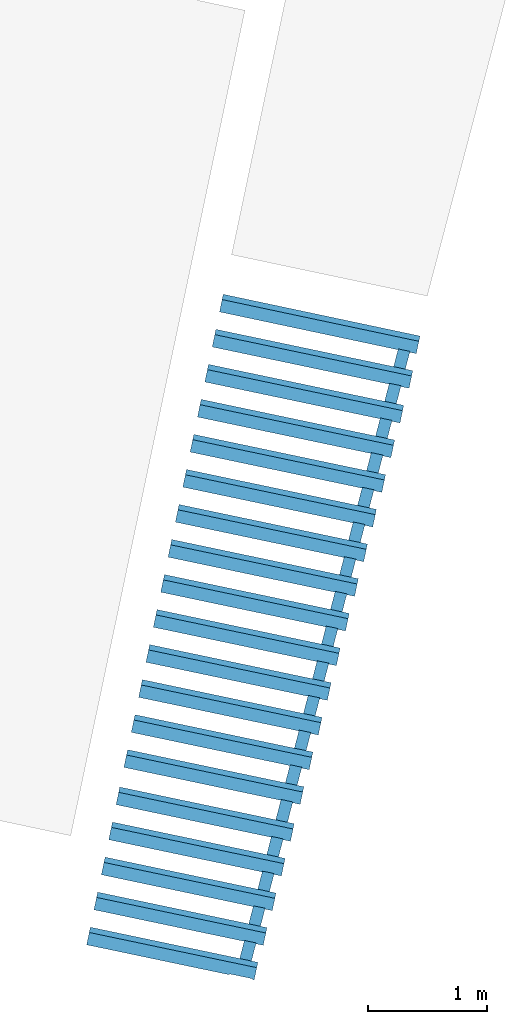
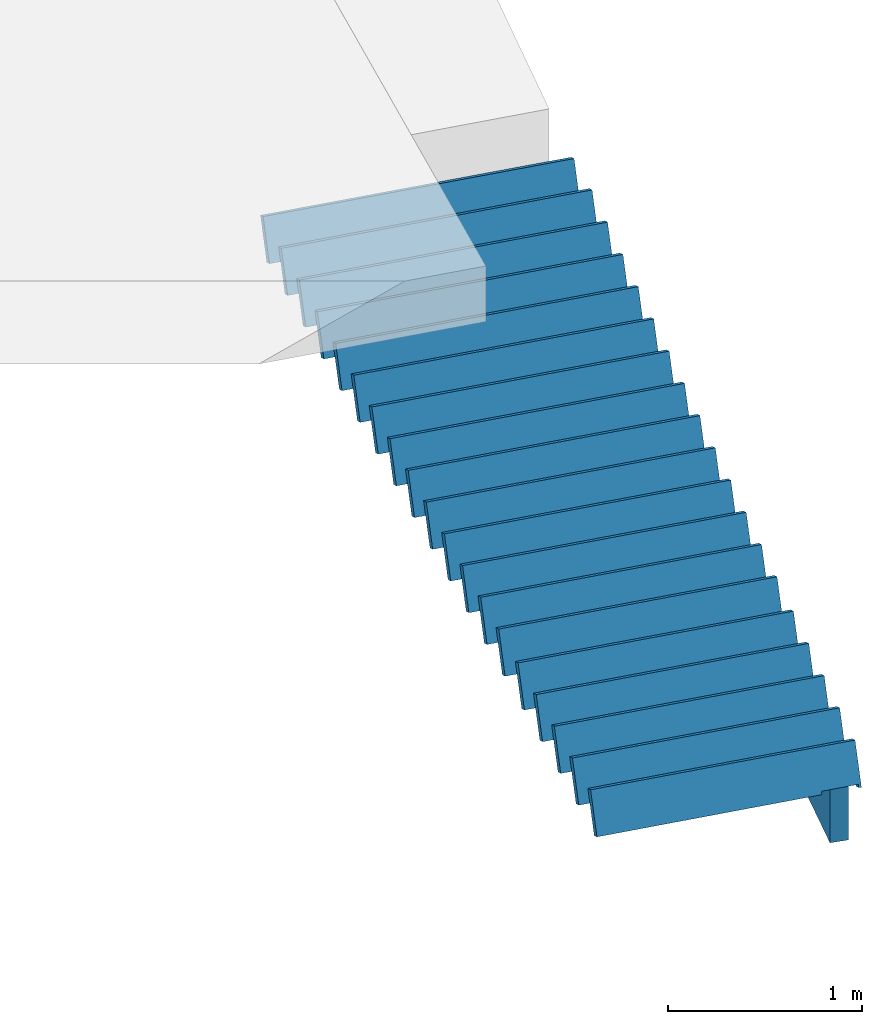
# One storey, part 1 of 2: 20 beams.
"""IFC2X3 building model written with IfcOpenShell, lengths in metres."""

from ifc_helpers import new_model, entity, si_unit, converted_unit, derived_unit, direction, frame, frame_2d, origin, place, context, subcontext, project, spatial, rectangle, extrude, faceted_brep, material, type_object, element, save


model = new_model("IFC2X3")

# Units and contexts
model_context = context("Model", 3, precision=1e-05, world=origin(), true_north=direction((6.12303176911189e-17, 1.0)))
body_context = subcontext(model_context, "Body", "Model", "MODEL_VIEW")
ifc_project = project(units=[si_unit("LENGTHUNIT", "METRE"), si_unit("AREAUNIT", "SQUARE_METRE"), si_unit("VOLUMEUNIT", "CUBIC_METRE"), converted_unit("PLANEANGLEUNIT", "DEGREE", entity("IfcRatioMeasure", 0.0174532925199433), si_unit("PLANEANGLEUNIT", "RADIAN"), dimensions=[0, 0, 0, 0, 0, 0, 0]), si_unit("MASSUNIT", "GRAM", prefix="KILO"), derived_unit("MASSDENSITYUNIT", [(si_unit("MASSUNIT", "GRAM", prefix="KILO"), 1), (si_unit("LENGTHUNIT", "METRE"), -3)]), si_unit("TIMEUNIT", "SECOND"), si_unit("FREQUENCYUNIT", "HERTZ"), si_unit("THERMODYNAMICTEMPERATUREUNIT", "DEGREE_CELSIUS"), derived_unit("THERMALTRANSMITTANCEUNIT", [(si_unit("MASSUNIT", "GRAM", prefix="KILO"), 1), (si_unit("THERMODYNAMICTEMPERATUREUNIT", "KELVIN"), -1), (si_unit("TIMEUNIT", "SECOND"), -3)]), derived_unit("VOLUMETRICFLOWRATEUNIT", [(si_unit("LENGTHUNIT", "METRE"), 3), (si_unit("TIMEUNIT", "SECOND"), -1)]), si_unit("ELECTRICCURRENTUNIT", "AMPERE"), si_unit("ELECTRICVOLTAGEUNIT", "VOLT"), si_unit("POWERUNIT", "WATT"), si_unit("FORCEUNIT", "NEWTON", prefix="KILO"), si_unit("ILLUMINANCEUNIT", "LUX"), si_unit("LUMINOUSFLUXUNIT", "LUMEN"), si_unit("LUMINOUSINTENSITYUNIT", "CANDELA"), derived_unit("USERDEFINED", [(si_unit("MASSUNIT", "GRAM", prefix="KILO"), -1), (si_unit("LENGTHUNIT", "METRE"), -2), (si_unit("TIMEUNIT", "SECOND"), 3), (si_unit("LUMINOUSFLUXUNIT", "LUMEN"), 1)]), derived_unit("LINEARVELOCITYUNIT", [(si_unit("LENGTHUNIT", "METRE"), 1), (si_unit("TIMEUNIT", "SECOND"), -1)]), si_unit("PRESSUREUNIT", "PASCAL"), derived_unit("USERDEFINED", [(si_unit("LENGTHUNIT", "METRE"), -2), (si_unit("MASSUNIT", "GRAM", prefix="KILO"), 1), (si_unit("TIMEUNIT", "SECOND"), -2)])], contexts=[model_context])

# Site, building, storey
site_placement = place(None, origin())
site = spatial("IfcSite", under=ifc_project, at=site_placement, Name="Default", CompositionType="ELEMENT")
building_placement = place(site_placement, origin())
building = spatial("IfcBuilding", under=site, at=building_placement, CompositionType="ELEMENT")
storey_placement = place(building_placement, frame((0.0, 0.0, 2.82)))
storey = spatial("IfcBuildingStorey", under=building, at=storey_placement, Name="Etage 1", CompositionType="ELEMENT", Elevation=2.82)

# Beams
ifc_material = material(Name="Béton - Béton coulé sur place")
beam_type_1 = type_object("IfcBeamType", Name="10 x 35 ht", PredefinedType="BEAM")
beam_1_placement = place(storey_placement, frame((-9.07033245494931, 78.4099005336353, -0.0886871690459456), z_axis=(0.0, 0.0, 1.0), x_axis=(-0.251659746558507, -0.96781577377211, 0.0)))
element("IfcBeam", 1, at=beam_1_placement, inside=storey, type_object=beam_type_1, material=ifc_material, Name="Poutre rectangulaire - Béton:10 x 35 ht", ObjectType="Poutre rectangulaire - Béton:10 x 35 ht", context=body_context, shape_type="SweptSolid", body=[
    extrude(rectangle(XDim=0.35, YDim=0.100000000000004, at=frame_2d((2.77555756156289e-16, -4.28129753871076e-15), x_axis=(1.0, 0.0))), frame((0.0, 0.0, -0.175000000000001), z_axis=(1.0, 0.0, 0.0), x_axis=(0.0, 0.0, -1.0)), (0.0, 0.0, 1.0), 5.47270000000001),
])
beam_type_2 = type_object("IfcBeamType", Name="5 x 25 ht 2", PredefinedType="BEAM")
beam_2_placement = place(storey_placement, frame((-10.6346334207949, 78.313650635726, -0.125829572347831), z_axis=(0.0, 0.0, 1.0), x_axis=(0.978238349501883, -0.207484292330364, 0.0)))
element("IfcBeam", 2, at=beam_2_placement, inside=storey, type_object=beam_type_2, material=ifc_material, Name="Poutre rectangulaire - Béton:5 x 25 ht 2", ObjectType="Poutre rectangulaire - Béton:5 x 25 ht 2", context=body_context, shape_type="Brep", body=[
    faceted_brep([(1.61284398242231, 0.447738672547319, 0.247707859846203), (1.61284398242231, 0.342084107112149, 0.0211309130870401), (1.61284398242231, 0.387399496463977, 0.0), (1.61284398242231, 0.493054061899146, 0.226576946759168), (-0.0725560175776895, 0.44773867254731, 0.247707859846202), (-0.0725560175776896, 0.493054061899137, 0.226576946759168), (-0.0725560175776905, 0.387399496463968, 0.0), (-0.0725560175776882, 0.342084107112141, 0.0211309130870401), (1.45675608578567, 0.342084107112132, 0.0211309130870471), (1.45709522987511, 0.349550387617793, 0.0371424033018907), (1.55719834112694, 0.349550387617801, 0.037142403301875), (1.55685919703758, 0.342084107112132, 0.0211309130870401), (1.55891757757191, 0.387399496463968, 0.0), (1.55970430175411, 0.404719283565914, 0.037142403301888), (1.45960119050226, 0.404719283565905, 0.0371424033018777), (1.45881446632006, 0.387399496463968, 0.0)], [[[0, 1, 2, 3]], [[4, 5, 6, 7]], [[1, 0, 4, 7, 8, 9, 10, 11]], [[2, 1, 11, 12]], [[3, 2, 12, 13, 14, 15, 6, 5]], [[0, 3, 5, 4]], [[14, 9, 8, 15]], [[10, 13, 12, 11]], [[9, 14, 13, 10]], [[7, 6, 15, 8]]]),
])
beam_3_placement = place(storey_placement, frame((-10.6956964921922, 78.0231541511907, -0.125829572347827), z_axis=(0.0, 0.0, 1.0), x_axis=(0.978645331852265, -0.205556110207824, 0.0)))
element("IfcBeam", 3, at=beam_3_placement, inside=storey, type_object=beam_type_2, material=ifc_material, Name="Poutre rectangulaire - Béton:5 x 25 ht 2", ObjectType="Poutre rectangulaire - Béton:5 x 25 ht 2", context=body_context, shape_type="Brep", body=[
    faceted_brep([(1.61418626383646, 0.444700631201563, 0.247707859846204), (1.61418626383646, 0.339046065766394, 0.0211309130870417), (1.61418626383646, 0.38436145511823, 0.0), (1.61418626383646, 0.490016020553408, 0.226576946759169), (-0.0712137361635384, 0.444700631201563, 0.247707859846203), (-0.0712137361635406, 0.490016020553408, 0.226576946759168), (-0.0712137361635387, 0.38436145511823, 0.0), (-0.0712137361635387, 0.339046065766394, 0.0211309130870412), (1.44339529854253, 0.339046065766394, 0.0211309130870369), (1.44374918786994, 0.346512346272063, 0.0371424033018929), (1.54386145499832, 0.346512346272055, 0.0371424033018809), (1.54350756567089, 0.339046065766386, 0.0211309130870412), (1.54565544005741, 0.384361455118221, 0.0), (1.54647636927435, 0.401681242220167, 0.0371424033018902), (1.44636410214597, 0.40168124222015, 0.0371424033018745), (1.44554317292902, 0.384361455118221, 0.0)], [[[0, 1, 2, 3]], [[4, 5, 6, 7]], [[1, 0, 4, 7, 8, 9, 10, 11]], [[2, 1, 11, 12]], [[3, 2, 12, 13, 14, 15, 6, 5]], [[0, 3, 5, 4]], [[14, 9, 8, 15]], [[10, 13, 12, 11]], [[9, 14, 13, 10]], [[7, 6, 15, 8]]]),
])
beam_4_placement = place(storey_placement, frame((-10.7577037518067, 77.7325098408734, -0.125829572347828), z_axis=(0.0, 0.0, 1.0), x_axis=(0.978645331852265, -0.205556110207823, 0.0)))
element("IfcBeam", 4, at=beam_4_placement, inside=storey, type_object=beam_type_2, material=ifc_material, Name="Poutre rectangulaire - Béton:5 x 25 ht 2", ObjectType="Poutre rectangulaire - Béton:5 x 25 ht 2", context=body_context, shape_type="Brep", body=[
    faceted_brep([(1.60077781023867, 0.441884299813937, 0.247707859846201), (1.60077781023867, 0.336229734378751, 0.0211309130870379), (1.60077781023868, 0.381545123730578, 0.0), (1.60077781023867, 0.487199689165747, 0.226576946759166), (-0.0706221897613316, 0.441884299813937, 0.2477078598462), (-0.0706221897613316, 0.487199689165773, 0.226576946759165), (-0.07062218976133, 0.381545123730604, 0.0), (-0.0706221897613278, 0.33622973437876, 0.0211309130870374), (1.43011519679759, 0.33622973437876, 0.0211309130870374), (1.43046908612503, 0.34369601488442, 0.037142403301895), (1.53058135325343, 0.343696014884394, 0.0371424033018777), (1.53022746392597, 0.336229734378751, 0.0211309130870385), (1.53237533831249, 0.381545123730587, 0.0), (1.53319626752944, 0.398864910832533, 0.0371424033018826), (1.43308400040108, 0.398864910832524, 0.0371424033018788), (1.4322630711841, 0.381545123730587, 0.0)], [[[0, 1, 2, 3]], [[4, 5, 6, 7]], [[1, 0, 4, 7, 8, 9, 10, 11]], [[2, 1, 11, 12]], [[3, 2, 12, 13, 14, 15, 6, 5]], [[0, 3, 5, 4]], [[14, 9, 8, 15]], [[10, 13, 12, 11]], [[9, 14, 13, 10]], [[7, 6, 15, 8]]]),
])
beam_5_placement = place(storey_placement, frame((-10.8192216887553, 77.4419683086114, -0.125829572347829), z_axis=(0.0, 0.0, 1.0), x_axis=(0.978645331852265, -0.205556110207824, 0.0)))
element("IfcBeam", 5, at=beam_5_placement, inside=storey, type_object=beam_type_2, material=ifc_material, Name="Poutre rectangulaire - Béton:5 x 25 ht 2", ObjectType="Poutre rectangulaire - Béton:5 x 25 ht 2", context=body_context, shape_type="Brep", body=[
    faceted_brep([(1.58641160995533, 0.438866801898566, 0.247707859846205), (1.58641160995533, 0.333212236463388, 0.0211309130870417), (1.58641160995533, 0.378527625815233, 0.0), (1.58641160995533, 0.484182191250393, 0.22657694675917), (-0.0699883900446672, 0.438866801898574, 0.247707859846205), (-0.0699883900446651, 0.484182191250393, 0.22657694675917), (-0.0699883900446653, 0.378527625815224, 0.0), (-0.0699883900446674, 0.333212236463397, 0.0211309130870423), (1.41637734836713, 0.333212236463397, 0.0211309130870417), (1.41673123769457, 0.340678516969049, 0.0371424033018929), (1.51684350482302, 0.34067851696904, 0.037142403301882), (1.51648961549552, 0.333212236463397, 0.0211309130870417), (1.51863748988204, 0.378527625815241, 0.0), (1.51945841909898, 0.395847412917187, 0.0371424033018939), (1.41934615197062, 0.395847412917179, 0.0371424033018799), (1.41852522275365, 0.378527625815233, 0.0)], [[[0, 1, 2, 3]], [[4, 5, 6, 7]], [[1, 0, 4, 7, 8, 9, 10, 11]], [[2, 1, 11, 12]], [[3, 2, 12, 13, 14, 15, 6, 5]], [[0, 3, 5, 4]], [[14, 9, 8, 15]], [[10, 13, 12, 11]], [[9, 14, 13, 10]], [[7, 6, 15, 8]]]),
])
beam_6_placement = place(storey_placement, frame((-10.8807396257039, 77.1514267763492, -0.125829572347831), z_axis=(0.0, 0.0, 1.0), x_axis=(0.978645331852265, -0.205556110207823, 0.0)))
element("IfcBeam", 6, at=beam_6_placement, inside=storey, type_object=beam_type_2, material=ifc_material, Name="Poutre rectangulaire - Béton:5 x 25 ht 2", ObjectType="Poutre rectangulaire - Béton:5 x 25 ht 2", context=body_context, shape_type="Brep", body=[
    faceted_brep([(1.57204540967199, 0.435849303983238, 0.247707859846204), (1.57204540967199, 0.330194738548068, 0.0211309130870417), (1.57204540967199, 0.375510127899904, 0.0), (1.57204540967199, 0.481164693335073, 0.226576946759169), (-0.0693545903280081, 0.435849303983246, 0.247707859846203), (-0.0693545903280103, 0.481164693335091, 0.226576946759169), (-0.0693545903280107, 0.375510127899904, 0.0), (-0.0693545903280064, 0.330194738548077, 0.0211309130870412), (1.40263949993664, 0.330194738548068, 0.0211309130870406), (1.40299338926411, 0.337661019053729, 0.0371424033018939), (1.50310565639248, 0.33766101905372, 0.0371424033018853), (1.50275176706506, 0.330194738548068, 0.0211309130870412), (1.50489964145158, 0.375510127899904, 0.0), (1.50572057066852, 0.392829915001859, 0.0371424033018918), (1.40560830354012, 0.39282991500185, 0.037142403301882), (1.40478737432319, 0.375510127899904, 0.0)], [[[0, 1, 2, 3]], [[4, 5, 6, 7]], [[1, 0, 4, 7, 8, 9, 10, 11]], [[2, 1, 11, 12]], [[3, 2, 12, 13, 14, 15, 6, 5]], [[0, 3, 5, 4]], [[14, 9, 8, 15]], [[10, 13, 12, 11]], [[9, 14, 13, 10]], [[7, 6, 15, 8]]]),
])
beam_7_placement = place(storey_placement, frame((-10.9422575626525, 76.8608852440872, -0.125829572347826), z_axis=(0.0, 0.0, 1.0), x_axis=(0.978645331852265, -0.205556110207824, 0.0)))
element("IfcBeam", 7, at=beam_7_placement, inside=storey, type_object=beam_type_2, material=ifc_material, Name="Poutre rectangulaire - Béton:5 x 25 ht 2", ObjectType="Poutre rectangulaire - Béton:5 x 25 ht 2", context=body_context, shape_type="Brep", body=[
    faceted_brep([(1.55767920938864, 0.432831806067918, 0.247707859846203), (1.55767920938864, 0.32717724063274, 0.0211309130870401), (1.55767920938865, 0.372492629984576, 0.0), (1.55767920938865, 0.478147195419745, 0.226576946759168), (-0.0687207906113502, 0.432831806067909, 0.247707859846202), (-0.0687207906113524, 0.478147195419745, 0.226576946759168), (-0.0687207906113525, 0.372492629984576, 0.0), (-0.0687207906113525, 0.32717724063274, 0.0211309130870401), (1.38890165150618, 0.32717724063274, 0.0211309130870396), (1.38925554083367, 0.334643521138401, 0.0371424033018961), (1.48936780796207, 0.334643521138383, 0.0371424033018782), (1.48901391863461, 0.32717724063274, 0.0211309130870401), (1.49116179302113, 0.372492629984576, 0.0), (1.49198272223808, 0.389812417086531, 0.0371424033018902), (1.39187045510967, 0.389812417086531, 0.0371424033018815), (1.39104952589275, 0.372492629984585, 0.0)], [[[0, 1, 2, 3]], [[4, 5, 6, 7]], [[1, 0, 4, 7, 8, 9, 10, 11]], [[2, 1, 11, 12]], [[3, 2, 12, 13, 14, 15, 6, 5]], [[0, 3, 5, 4]], [[14, 9, 8, 15]], [[10, 13, 12, 11]], [[9, 14, 13, 10]], [[7, 6, 15, 8]]]),
])
beam_8_placement = place(storey_placement, frame((-11.004264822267, 76.5702409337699, -0.125829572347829), z_axis=(0.0, 0.0, 1.0), x_axis=(0.978645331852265, -0.205556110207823, 0.0)))
element("IfcBeam", 8, at=beam_8_placement, inside=storey, type_object=beam_type_2, material=ifc_material, Name="Poutre rectangulaire - Béton:5 x 25 ht 2", ObjectType="Poutre rectangulaire - Béton:5 x 25 ht 2", context=body_context, shape_type="Brep", body=[
    faceted_brep([(1.54427075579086, 0.430015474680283, 0.2477078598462), (1.54427075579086, 0.324360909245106, 0.0211309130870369), (1.54427075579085, 0.36967629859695, 0.0), (1.54427075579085, 0.475330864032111, 0.226576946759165), (-0.0681292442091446, 0.430015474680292, 0.2477078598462), (-0.0681292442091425, 0.475330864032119, 0.226576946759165), (-0.0681292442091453, 0.36967629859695, 0.0), (-0.0681292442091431, 0.324360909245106, 0.0211309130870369), (1.37562154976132, 0.324360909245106, 0.0211309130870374), (1.37597543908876, 0.331827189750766, 0.0371424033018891), (1.47608770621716, 0.331827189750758, 0.0371424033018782), (1.47573381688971, 0.324360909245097, 0.0211309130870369), (1.47788169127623, 0.369676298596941, 0.0), (1.47870262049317, 0.386996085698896, 0.0371424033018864), (1.37859035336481, 0.386996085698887, 0.037142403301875), (1.37776942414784, 0.369676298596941, 0.0)], [[[0, 1, 2, 3]], [[4, 5, 6, 7]], [[1, 0, 4, 7, 8, 9, 10, 11]], [[2, 1, 11, 12]], [[3, 2, 12, 13, 14, 15, 6, 5]], [[0, 3, 5, 4]], [[14, 9, 8, 15]], [[10, 13, 12, 11]], [[9, 14, 13, 10]], [[7, 6, 15, 8]]]),
])
beam_9_placement = place(storey_placement, frame((-11.0657827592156, 76.2796994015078, -0.125829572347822), z_axis=(0.0, 0.0, 1.0), x_axis=(0.978645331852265, -0.205556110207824, 0.0)))
element("IfcBeam", 9, at=beam_9_placement, inside=storey, type_object=beam_type_2, material=ifc_material, Name="Poutre rectangulaire - Béton:5 x 25 ht 2", ObjectType="Poutre rectangulaire - Béton:5 x 25 ht 2", context=body_context, shape_type="Brep", body=[
    faceted_brep([(1.52990455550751, 0.426997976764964, 0.2477078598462), (1.52990455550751, 0.321343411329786, 0.0211309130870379), (1.52990455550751, 0.36665880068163, 0.0), (1.52990455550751, 0.4723133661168, 0.226576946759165), (-0.0674954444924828, 0.426997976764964, 0.2477078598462), (-0.0674954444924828, 0.472313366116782, 0.226576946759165), (-0.0674954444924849, 0.366658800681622, 0.0), (-0.0674954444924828, 0.321343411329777, 0.0211309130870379), (1.36188370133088, 0.321343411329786, 0.0211309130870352), (1.3622375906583, 0.328809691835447, 0.0371424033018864), (1.46234985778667, 0.328809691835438, 0.037142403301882), (1.46199596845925, 0.321343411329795, 0.0211309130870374), (1.46414384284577, 0.36665880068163, 0.0), (1.46496477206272, 0.383978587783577, 0.0371424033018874), (1.36485250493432, 0.383978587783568, 0.0371424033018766), (1.36403157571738, 0.366658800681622, 0.0)], [[[0, 1, 2, 3]], [[4, 5, 6, 7]], [[1, 0, 4, 7, 8, 9, 10, 11]], [[2, 1, 11, 12]], [[3, 2, 12, 13, 14, 15, 6, 5]], [[0, 3, 5, 4]], [[14, 9, 8, 15]], [[10, 13, 12, 11]], [[9, 14, 13, 10]], [[7, 6, 15, 8]]]),
])
beam_10_placement = place(storey_placement, frame((-11.1273006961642, 75.9891578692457, -0.125829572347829), z_axis=(0.0, 0.0, 1.0), x_axis=(0.978645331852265, -0.205556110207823, 0.0)))
element("IfcBeam", 10, at=beam_10_placement, inside=storey, type_object=beam_type_2, material=ifc_material, Name="Poutre rectangulaire - Béton:5 x 25 ht 2", ObjectType="Poutre rectangulaire - Béton:5 x 25 ht 2", context=body_context, shape_type="Brep", body=[
    faceted_brep([(1.51553835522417, 0.423980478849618, 0.2477078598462), (1.51553835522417, 0.31832591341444, 0.0211309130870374), (1.51553835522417, 0.363641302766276, 0.0), (1.51553835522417, 0.469295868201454, 0.226576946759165), (-0.0668616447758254, 0.423980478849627, 0.2477078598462), (-0.0668616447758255, 0.469295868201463, 0.226576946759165), (-0.066861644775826, 0.363641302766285, 0.0), (-0.0668616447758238, 0.31832591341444, 0.0211309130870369), (1.34814585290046, 0.31832591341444, 0.0211309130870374), (1.34849974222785, 0.325792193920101, 0.0371424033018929), (1.4486120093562, 0.325792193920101, 0.0371424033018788), (1.44825812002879, 0.318325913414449, 0.0211309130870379), (1.45040599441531, 0.363641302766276, 0.0), (1.45122692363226, 0.380961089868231, 0.0371424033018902), (1.3511146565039, 0.380961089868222, 0.0371424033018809), (1.35029372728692, 0.363641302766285, 0.0)], [[[0, 1, 2, 3]], [[4, 5, 6, 7]], [[1, 0, 4, 7, 8, 9, 10, 11]], [[2, 1, 11, 12]], [[3, 2, 12, 13, 14, 15, 6, 5]], [[0, 3, 5, 4]], [[14, 9, 8, 15]], [[10, 13, 12, 11]], [[9, 14, 13, 10]], [[7, 6, 15, 8]]]),
])
beam_11_placement = place(storey_placement, frame((-11.1888186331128, 75.6986163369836, -0.125829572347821), z_axis=(0.0, 0.0, 1.0), x_axis=(0.978645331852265, -0.205556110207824, 0.0)))
element("IfcBeam", 11, at=beam_11_placement, inside=storey, type_object=beam_type_2, material=ifc_material, Name="Poutre rectangulaire - Béton:5 x 25 ht 2", ObjectType="Poutre rectangulaire - Béton:5 x 25 ht 2", context=body_context, shape_type="Brep", body=[
    faceted_brep([(1.50117215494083, 0.42096298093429, 0.247707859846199), (1.50117215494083, 0.315308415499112, 0.0211309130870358), (1.50117215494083, 0.360623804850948, 0.0), (1.50117215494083, 0.466278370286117, 0.226576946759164), (-0.0662278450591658, 0.420962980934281, 0.247707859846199), (-0.0662278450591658, 0.466278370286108, 0.226576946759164), (-0.0662278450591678, 0.360623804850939, 0.0), (-0.0662278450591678, 0.315308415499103, 0.0211309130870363), (1.33440800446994, 0.315308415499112, 0.0211309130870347), (1.33476189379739, 0.322774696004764, 0.0371424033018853), (1.43487416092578, 0.322774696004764, 0.0371424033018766), (1.43452027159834, 0.315308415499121, 0.0211309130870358), (1.43666814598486, 0.360623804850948, 0.0), (1.43748907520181, 0.377943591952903, 0.0371424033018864), (1.33737680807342, 0.377943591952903, 0.037142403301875), (1.33655587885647, 0.360623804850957, 0.0)], [[[0, 1, 2, 3]], [[4, 5, 6, 7]], [[1, 0, 4, 7, 8, 9, 10, 11]], [[2, 1, 11, 12]], [[3, 2, 12, 13, 14, 15, 6, 5]], [[0, 3, 5, 4]], [[14, 9, 8, 15]], [[10, 13, 12, 11]], [[9, 14, 13, 10]], [[7, 6, 15, 8]]]),
])
beam_12_placement = place(storey_placement, frame((-11.2508258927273, 75.4079720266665, -0.125829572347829), z_axis=(0.0, 0.0, 1.0), x_axis=(0.978645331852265, -0.205556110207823, 0.0)))
element("IfcBeam", 12, at=beam_12_placement, inside=storey, type_object=beam_type_2, material=ifc_material, Name="Poutre rectangulaire - Béton:5 x 25 ht 2", ObjectType="Poutre rectangulaire - Béton:5 x 25 ht 2", context=body_context, shape_type="Brep", body=[
    faceted_brep([(1.48776370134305, 0.418146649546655, 0.247707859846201), (1.48776370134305, 0.312492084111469, 0.021130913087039), (1.48776370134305, 0.357807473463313, 0.0), (1.48776370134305, 0.463462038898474, 0.226576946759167), (-0.0656362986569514, 0.418146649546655, 0.247707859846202), (-0.0656362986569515, 0.463462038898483, 0.226576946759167), (-0.0656362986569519, 0.357807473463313, 0.0), (-0.0656362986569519, 0.312492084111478, 0.0211309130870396), (1.32112790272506, 0.312492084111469, 0.0211309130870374), (1.32148179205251, 0.319958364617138, 0.0371424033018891), (1.4215940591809, 0.31995836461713, 0.0371424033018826), (1.42124016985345, 0.312492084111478, 0.021130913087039), (1.42338804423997, 0.357807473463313, 0.0), (1.42420897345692, 0.375127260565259, 0.0371424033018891), (1.3240967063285, 0.375127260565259, 0.0371424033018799), (1.32327577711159, 0.357807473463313, 0.0)], [[[0, 1, 2, 3]], [[4, 5, 6, 7]], [[1, 0, 4, 7, 8, 9, 10, 11]], [[2, 1, 11, 12]], [[3, 2, 12, 13, 14, 15, 6, 5]], [[0, 3, 5, 4]], [[14, 9, 8, 15]], [[10, 13, 12, 11]], [[9, 14, 13, 10]], [[7, 6, 15, 8]]]),
])
beam_13_placement = place(storey_placement, frame((-11.3123438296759, 75.1174304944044, -0.125829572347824), z_axis=(0.0, 0.0, 1.0), x_axis=(0.978645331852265, -0.205556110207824, 0.0)))
element("IfcBeam", 13, at=beam_13_placement, inside=storey, type_object=beam_type_2, material=ifc_material, Name="Poutre rectangulaire - Béton:5 x 25 ht 2", ObjectType="Poutre rectangulaire - Béton:5 x 25 ht 2", context=body_context, shape_type="Brep", body=[
    faceted_brep([(1.4733975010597, 0.415129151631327, 0.2477078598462), (1.4733975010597, 0.309474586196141, 0.0211309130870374), (1.4733975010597, 0.354789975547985, 0.0), (1.4733975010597, 0.460444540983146, 0.226576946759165), (-0.0650024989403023, 0.415129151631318, 0.2477078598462), (-0.0650024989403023, 0.460444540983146, 0.226576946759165), (-0.0650024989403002, 0.354789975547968, 0.0), (-0.0650024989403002, 0.309474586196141, 0.0211309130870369), (1.30739005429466, 0.309474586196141, 0.0211309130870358), (1.30774394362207, 0.31694086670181, 0.0371424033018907), (1.40785621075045, 0.316940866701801, 0.0371424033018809), (1.40750232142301, 0.309474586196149, 0.0211309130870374), (1.40965019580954, 0.354789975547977, 0.0), (1.41047112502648, 0.372109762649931, 0.0371424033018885), (1.31035885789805, 0.372109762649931, 0.0371424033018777), (1.30953792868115, 0.354789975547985, 0.0)], [[[0, 1, 2, 3]], [[4, 5, 6, 7]], [[1, 0, 4, 7, 8, 9, 10, 11]], [[2, 1, 11, 12]], [[3, 2, 12, 13, 14, 15, 6, 5]], [[0, 3, 5, 4]], [[14, 9, 8, 15]], [[10, 13, 12, 11]], [[9, 14, 13, 10]], [[7, 6, 15, 8]]]),
])
beam_14_placement = place(storey_placement, frame((-11.3738617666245, 74.8268889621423, -0.125829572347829), z_axis=(0.0, 0.0, 1.0), x_axis=(0.978645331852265, -0.205556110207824, 0.0)))
element("IfcBeam", 14, at=beam_14_placement, inside=storey, type_object=beam_type_2, material=ifc_material, Name="Poutre rectangulaire - Béton:5 x 25 ht 2", ObjectType="Poutre rectangulaire - Béton:5 x 25 ht 2", context=body_context, shape_type="Brep", body=[
    faceted_brep([(1.45903130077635, 0.41211165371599, 0.247707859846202), (1.45903130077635, 0.306457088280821, 0.021130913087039), (1.45903130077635, 0.351772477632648, 0.0), (1.45903130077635, 0.457427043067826, 0.226576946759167), (-0.0643686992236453, 0.41211165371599, 0.247707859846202), (-0.0643686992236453, 0.457427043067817, 0.226576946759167), (-0.0643686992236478, 0.351772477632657, 0.0), (-0.0643686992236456, 0.306457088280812, 0.021130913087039), (1.29365220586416, 0.306457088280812, 0.0211309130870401), (1.29400609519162, 0.313923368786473, 0.0371424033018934), (1.39411836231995, 0.313923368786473, 0.0371424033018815), (1.39376447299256, 0.306457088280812, 0.021130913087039), (1.39591234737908, 0.351772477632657, 0.0), (1.39673327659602, 0.369092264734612, 0.0371424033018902), (1.29662100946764, 0.369092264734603, 0.0371424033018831), (1.29580008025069, 0.351772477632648, 0.0)], [[[0, 1, 2, 3]], [[4, 5, 6, 7]], [[1, 0, 4, 7, 8, 9, 10, 11]], [[2, 1, 11, 12]], [[3, 2, 12, 13, 14, 15, 6, 5]], [[0, 3, 5, 4]], [[14, 9, 8, 15]], [[10, 13, 12, 11]], [[9, 14, 13, 10]], [[7, 6, 15, 8]]]),
])
beam_15_placement = place(storey_placement, frame((-11.435869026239, 74.536244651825, -0.125829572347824), z_axis=(0.0, 0.0, 1.0), x_axis=(0.978645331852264, -0.205556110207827, 0.0)))
element("IfcBeam", 15, at=beam_15_placement, inside=storey, type_object=beam_type_2, material=ifc_material, Name="Poutre rectangulaire - Béton:5 x 25 ht 2", ObjectType="Poutre rectangulaire - Béton:5 x 25 ht 2", context=body_context, shape_type="Brep", body=[
    faceted_brep([(1.44562284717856, 0.409295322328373, 0.247707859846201), (1.44562284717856, 0.303640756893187, 0.0211309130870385), (1.44562284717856, 0.348956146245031, 0.0), (1.44562284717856, 0.454610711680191, 0.226576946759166), (-0.063777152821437, 0.409295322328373, 0.247707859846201), (-0.063777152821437, 0.4546107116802, 0.226576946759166), (-0.0637771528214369, 0.348956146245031, 0.0), (-0.0637771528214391, 0.303640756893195, 0.0211309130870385), (1.28037210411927, 0.303640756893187, 0.0211309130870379), (1.28072599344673, 0.311107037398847, 0.0371424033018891), (1.38083826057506, 0.311107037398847, 0.0371424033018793), (1.38048437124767, 0.303640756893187, 0.0211309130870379), (1.38263224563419, 0.348956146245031, 0.0), (1.38345317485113, 0.366275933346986, 0.0371424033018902), (1.28334090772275, 0.366275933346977, 0.0371424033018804), (1.2825199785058, 0.348956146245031, 0.0)], [[[0, 1, 2, 3]], [[4, 5, 6, 7]], [[1, 0, 4, 7, 8, 9, 10, 11]], [[2, 1, 11, 12]], [[3, 2, 12, 13, 14, 15, 6, 5]], [[0, 3, 5, 4]], [[14, 9, 8, 15]], [[10, 13, 12, 11]], [[9, 14, 13, 10]], [[7, 6, 15, 8]]]),
])
beam_16_placement = place(storey_placement, frame((-11.5013979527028, 74.2267163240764, -0.125829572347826), z_axis=(0.0, 0.0, 1.0), x_axis=(0.978645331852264, -0.205556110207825, 0.0)))
element("IfcBeam", 16, at=beam_16_placement, inside=storey, type_object=beam_type_2, material=ifc_material, Name="Poutre rectangulaire - Béton:5 x 25 ht 2", ObjectType="Poutre rectangulaire - Béton:5 x 25 ht 2", context=body_context, shape_type="Brep", body=[
    faceted_brep([(1.43029890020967, 0.406076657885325, 0.247707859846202), (1.43029890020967, 0.300422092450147, 0.0211309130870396), (1.43029890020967, 0.345737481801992, 0.0), (1.43029890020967, 0.451392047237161, 0.226576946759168), (-0.0631010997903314, 0.406076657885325, 0.247707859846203), (-0.0631010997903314, 0.451392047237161, 0.226576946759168), (-0.0631010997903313, 0.345737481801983, 0.0), (-0.0631010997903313, 0.300422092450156, 0.0211309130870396), (1.26572740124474, 0.300422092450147, 0.021130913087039), (1.26608129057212, 0.307888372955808, 0.0371424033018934), (1.36619355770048, 0.307888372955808, 0.0371424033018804), (1.36583966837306, 0.300422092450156, 0.0211309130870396), (1.36798754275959, 0.345737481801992, 0.0), (1.36880847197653, 0.363057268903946, 0.037142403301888), (1.26869620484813, 0.363057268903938, 0.0371424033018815), (1.26787527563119, 0.345737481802, 0.0)], [[[0, 1, 2, 3]], [[4, 5, 6, 7]], [[1, 0, 4, 7, 8, 9, 10, 11]], [[2, 1, 11, 12]], [[3, 2, 12, 13, 14, 15, 6, 5]], [[0, 3, 5, 4]], [[14, 9, 8, 15]], [[10, 13, 12, 11]], [[9, 14, 13, 10]], [[7, 6, 15, 8]]]),
])
beam_17_placement = place(storey_placement, frame((-11.5629158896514, 73.9361747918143, -0.125829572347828), z_axis=(0.0, 0.0, 1.0), x_axis=(0.978645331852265, -0.205556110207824, 0.0)))
element("IfcBeam", 17, at=beam_17_placement, inside=storey, type_object=beam_type_2, material=ifc_material, Name="Poutre rectangulaire - Béton:5 x 25 ht 2", ObjectType="Poutre rectangulaire - Béton:5 x 25 ht 2", context=body_context, shape_type="Brep", body=[
    faceted_brep([(1.41593269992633, 0.403059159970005, 0.247707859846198), (1.41593269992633, 0.297404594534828, 0.0211309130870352), (1.41593269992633, 0.342719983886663, 0.0), (1.41593269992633, 0.448374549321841, 0.226576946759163), (-0.0624673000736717, 0.403059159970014, 0.247707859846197), (-0.0624673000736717, 0.448374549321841, 0.226576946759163), (-0.06246730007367, 0.342719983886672, 0.0), (-0.0624673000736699, 0.297404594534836, 0.0211309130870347), (1.25198955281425, 0.297404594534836, 0.0211309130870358), (1.25234344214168, 0.304870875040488, 0.0371424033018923), (1.35245570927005, 0.304870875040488, 0.0371424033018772), (1.35210181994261, 0.297404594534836, 0.0211309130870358), (1.35424969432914, 0.342719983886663, 0.0), (1.35507062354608, 0.360039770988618, 0.0371424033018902), (1.25495835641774, 0.360039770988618, 0.0371424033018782), (1.25413742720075, 0.342719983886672, 0.0)], [[[0, 1, 2, 3]], [[4, 5, 6, 7]], [[1, 0, 4, 7, 8, 9, 10, 11]], [[2, 1, 11, 12]], [[3, 2, 12, 13, 14, 15, 6, 5]], [[0, 3, 5, 4]], [[14, 9, 8, 15]], [[10, 13, 12, 11]], [[9, 14, 13, 10]], [[7, 6, 15, 8]]]),
])
beam_18_placement = place(storey_placement, frame((-11.6244338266, 73.6456332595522, -0.125829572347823), z_axis=(0.0, 0.0, 1.0), x_axis=(0.978645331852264, -0.205556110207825, 0.0)))
element("IfcBeam", 18, at=beam_18_placement, inside=storey, type_object=beam_type_2, material=ifc_material, Name="Poutre rectangulaire - Béton:5 x 25 ht 2", ObjectType="Poutre rectangulaire - Béton:5 x 25 ht 2", context=body_context, shape_type="Brep", body=[
    faceted_brep([(1.40156649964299, 0.400041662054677, 0.2477078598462), (1.40156649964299, 0.294387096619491, 0.0211309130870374), (1.40156649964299, 0.339702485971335, 0.0), (1.40156649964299, 0.445357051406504, 0.226576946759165), (-0.0618335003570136, 0.400041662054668, 0.2477078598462), (-0.0618335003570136, 0.445357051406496, 0.226576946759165), (-0.0618335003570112, 0.339702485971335, 0.0), (-0.0618335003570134, 0.294387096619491, 0.0211309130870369), (1.23825170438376, 0.294387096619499, 0.0211309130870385), (1.23860559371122, 0.30185337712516, 0.0371424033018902), (1.33871786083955, 0.301853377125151, 0.0371424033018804), (1.33836397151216, 0.294387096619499, 0.0211309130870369), (1.34051184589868, 0.339702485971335, 0.0), (1.34133277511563, 0.357022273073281, 0.0371424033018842), (1.24122050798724, 0.357022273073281, 0.0371424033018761), (1.2403995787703, 0.339702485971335, 0.0)], [[[0, 1, 2, 3]], [[4, 5, 6, 7]], [[1, 0, 4, 7, 8, 9, 10, 11]], [[2, 1, 11, 12]], [[3, 2, 12, 13, 14, 15, 6, 5]], [[0, 3, 5, 4]], [[14, 9, 8, 15]], [[10, 13, 12, 11]], [[9, 14, 13, 10]], [[7, 6, 15, 8]]]),
])
beam_19_placement = place(storey_placement, frame((-11.6864410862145, 73.354988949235, -0.12582957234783), z_axis=(0.0, 0.0, 1.0), x_axis=(0.978645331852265, -0.205556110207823, 0.0)))
element("IfcBeam", 19, at=beam_19_placement, inside=storey, type_object=beam_type_2, material=ifc_material, Name="Poutre rectangulaire - Béton:5 x 25 ht 2", ObjectType="Poutre rectangulaire - Béton:5 x 25 ht 2", context=body_context, shape_type="Brep", body=[
    faceted_brep([(1.3881580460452, 0.397225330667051, 0.247707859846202), (1.3881580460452, 0.291570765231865, 0.021130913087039), (1.38815804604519, 0.336886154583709, 0.0), (1.3881580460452, 0.44254072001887, 0.226576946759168), (-0.0612419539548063, 0.397225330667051, 0.247707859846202), (-0.0612419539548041, 0.442540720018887, 0.226576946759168), (-0.0612419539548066, 0.336886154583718, 0.0), (-0.0612419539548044, 0.291570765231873, 0.0211309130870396), (1.22497160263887, 0.291570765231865, 0.0211309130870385), (1.22532549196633, 0.299037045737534, 0.0371424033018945), (1.32543775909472, 0.299037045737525, 0.0371424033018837), (1.32508386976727, 0.291570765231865, 0.0211309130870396), (1.3272317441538, 0.336886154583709, 0.0), (1.32805267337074, 0.354205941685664, 0.0371424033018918), (1.22794040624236, 0.354205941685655, 0.0371424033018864), (1.22711947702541, 0.336886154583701, 0.0)], [[[0, 1, 2, 3]], [[4, 5, 6, 7]], [[1, 0, 4, 7, 8, 9, 10, 11]], [[2, 1, 11, 12]], [[3, 2, 12, 13, 14, 15, 6, 5]], [[0, 3, 5, 4]], [[14, 9, 8, 15]], [[10, 13, 12, 11]], [[9, 14, 13, 10]], [[7, 6, 15, 8]]]),
])
beam_20_placement = place(storey_placement, frame((-11.7479590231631, 73.0644474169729, -0.125829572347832), z_axis=(0.0, 0.0, 1.0), x_axis=(0.978645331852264, -0.205556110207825, 0.0)))
element("IfcBeam", 20, at=beam_20_placement, inside=storey, type_object=beam_type_2, material=ifc_material, Name="Poutre rectangulaire - Béton:5 x 25 ht 2", ObjectType="Poutre rectangulaire - Béton:5 x 25 ht 2", context=body_context, shape_type="Brep", body=[
    faceted_brep([(1.37379184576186, 0.394207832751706, 0.247707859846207), (1.37379184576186, 0.288553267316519, 0.0211309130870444), (1.37379184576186, 0.333868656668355, 0.0), (1.37379184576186, 0.439523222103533, 0.226576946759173), (-0.0606081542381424, 0.394207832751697, 0.247707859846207), (-0.0606081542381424, 0.439523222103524, 0.226576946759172), (-0.0606081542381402, 0.333868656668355, 0.0), (-0.0606081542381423, 0.288553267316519, 0.0211309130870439), (1.15983499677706, 0.288553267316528, 0.021130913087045), (1.15983499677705, 0.29601954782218, 0.0371424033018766), (1.35983499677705, 0.29601954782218, 0.0371424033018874), (1.35983499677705, 0.288553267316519, 0.0211309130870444), (1.35983499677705, 0.333868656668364, 0.0), (1.35983499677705, 0.351188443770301, 0.037142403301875), (1.15983499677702, 0.35118844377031, 0.0371424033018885), (1.15983499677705, 0.333868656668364, 0.0)], [[[0, 1, 2, 3]], [[4, 5, 6, 7]], [[1, 0, 4, 7, 8, 9, 10, 11]], [[2, 1, 11, 12]], [[3, 2, 12, 13, 14, 15, 6, 5]], [[0, 3, 5, 4]], [[13, 10, 9, 14]], [[14, 9, 8, 15]], [[10, 13, 12, 11]], [[7, 6, 15, 8]]]),
])

save(model, "model.ifc")
